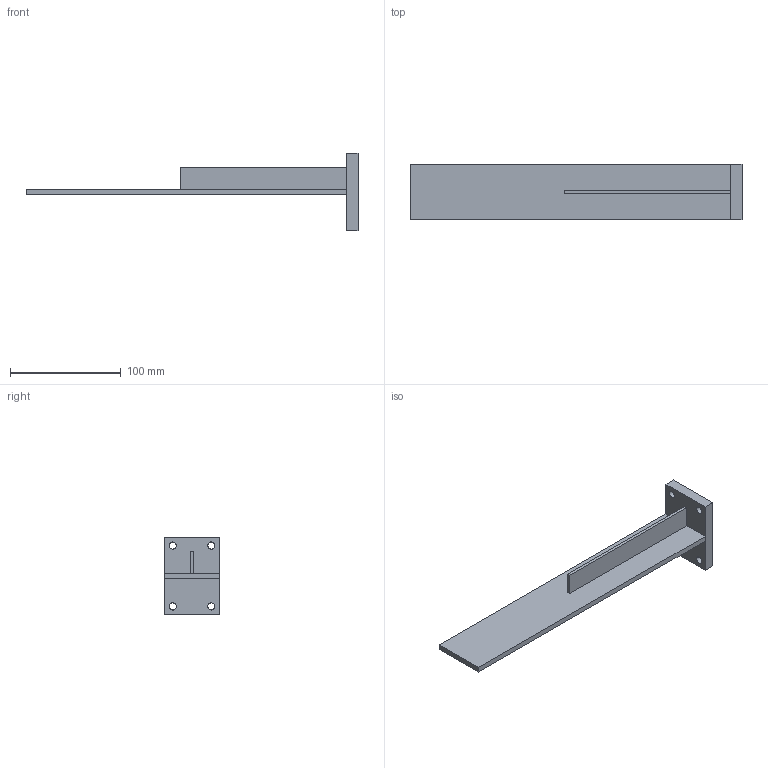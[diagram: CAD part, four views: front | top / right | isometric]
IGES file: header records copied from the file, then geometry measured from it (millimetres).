
Global section: file name: 03.05-A; native system: Autodesk Inventor 2014; preprocessor: unknown; author: Stefano; date: 20150522.092757; units: millimetre
Bounding box: 300 x 50 x 70 mm (x, y, z)
Volume: 115172.5 mm3; surface area: 49371.7 mm2
Topology: 3 solids, 3 shells, 22 faces, 52 edges, 36 vertices
Faces by surface type: bspline 22
